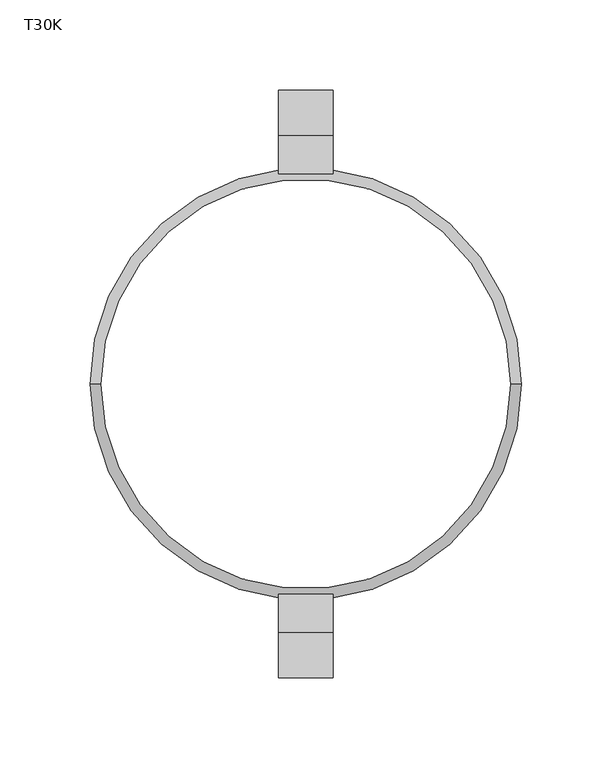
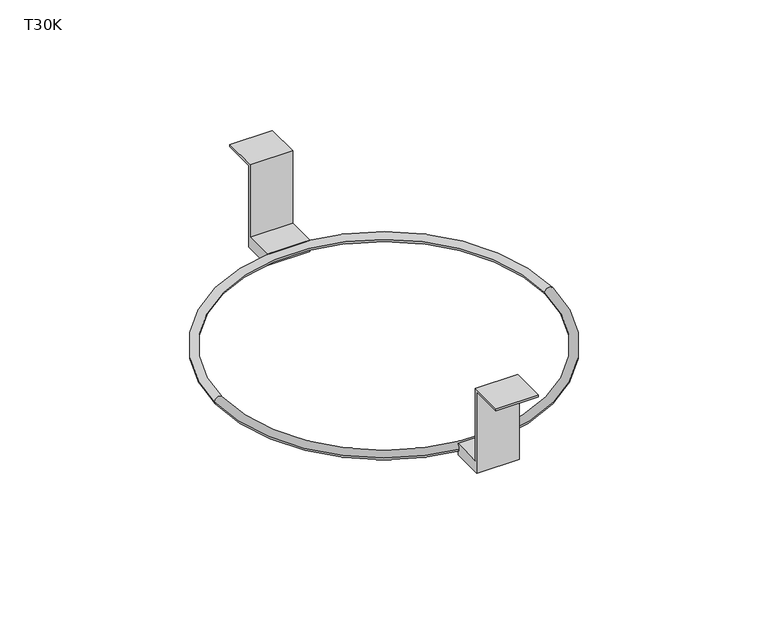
"""IFC4 building model written with IfcOpenShell, lengths in millimetres: valve geometry, Pipelife - Studnia PRO - Uchwyt-ramka : T30K."""

from ifc_helpers import new_model, si_unit, point, frame, origin, origin_with_axes, place, context, project, spatial, polyline, circle_curve, ellipse_curve, trimmed, outline, extrude, source, transform, mapped, element, save
from ifc_brep_helpers import revolved_surface, advanced_brep


def t30k_8f69c86d(model_context):
    return source(origin(), model_context, "Body", "SolidModel", [
        extrude(outline(polyline([(-139.5, 55.5), (-163.0, 55.5), (-163.0, 57.0), (-138.0, 57.0), (-138.0, 3.0), (-116.75, 3.0), (-116.75, -5.5), (-139.5, -5.5), (-139.5, 55.5)])), frame((-15.0, 0.0, 0.0), z_axis=(1.0, 0.0, 0.0), x_axis=(0.0, 1.0, 0.0)), (0.0, 0.0, 1.0), 30.0),
        extrude(outline(polyline([(163.0, 55.5), (139.5, 55.5), (139.5, -5.5), (116.75, -5.5), (116.75, 3.0), (138.0, 3.0), (138.0, 57.0), (163.0, 57.0), (163.0, 55.5)])), frame((-15.0, 0.0, 0.0), z_axis=(1.0, 0.0, 0.0), x_axis=(0.0, 1.0, 0.0)), (0.0, 0.0, 1.0), 30.0),
        advanced_brep(
        [(113.75, 0.0, 0.0), (-113.75, 0.0, 0.0), (-119.75, 0.0, 0.0), (119.75, 0.0, 0.0)],
        [
            (0, 1, circle_curve(frame((0.0, 0.0, 0.0), z_axis=(0.0, 0.0, -1.0), x_axis=(-1.0, 0.0, 0.0)), 113.75)),
            (1, 2, circle_curve(frame((-116.75, 0.0, 0.0), z_axis=(0.0, -1.0, 0.0), x_axis=(1.0, 0.0, 0.0)), 3.0)),
            (2, 3, circle_curve(frame((0.0, 0.0, 0.0), z_axis=(0.0, 0.0, 1.0), x_axis=(-1.0, 0.0, 0.0)), 119.75)),
            (3, 0, circle_curve(frame((116.75, 0.0, 0.0), z_axis=(0.0, -1.0, 0.0), x_axis=(-1.0, 0.0, 0.0)), 3.0)),
            (2, 1, circle_curve(frame((-116.75, 0.0, 0.0), z_axis=(0.0, -1.0, 0.0), x_axis=(1.0, 0.0, 0.0)), 3.0)),
            (0, 3, circle_curve(frame((116.75, 0.0, 0.0), z_axis=(0.0, -1.0, 0.0), x_axis=(-1.0, 0.0, 0.0)), 3.0)),
            (1, 0, circle_curve(frame((0.0, 0.0, 0.0), z_axis=(0.0, 0.0, -1.0), x_axis=(1.0, 0.0, 0.0)), 113.75)),
            (3, 2, circle_curve(origin_with_axes(), 119.75)),
        ],
        [
            revolved_surface(trimmed(ellipse_curve(frame((-116.75, 0.0, 0.0), z_axis=(0.0, 1.0, 0.0), x_axis=(1.0, 0.0, 0.0)), 3.0, 3.0), [point((-119.75, 0.0, 0.0))], [point((-113.75, 0.0, 0.0))], True, "CARTESIAN"), (0.0, 0.0, 0.0), (0.0, 0.0, 1.0)),
            revolved_surface(trimmed(ellipse_curve(frame((-116.75, 0.0, 0.0), z_axis=(0.0, 1.0, 0.0), x_axis=(1.0, 0.0, 0.0)), 3.0, 3.0), [point((-113.75, 0.0, 0.0))], [point((-119.75, 0.0, 0.0))], True, "CARTESIAN"), (0.0, 0.0, 0.0), (0.0, 0.0, 1.0)),
            revolved_surface(trimmed(ellipse_curve(frame((116.75, 0.0, 0.0), z_axis=(0.0, -1.0, 0.0), x_axis=(-1.0, 0.0, 0.0)), 3.0, 3.0), [point((119.75, 0.0, 0.0))], [point((113.75, 0.0, 0.0))], True, "CARTESIAN"), (0.0, 0.0, 0.0), (0.0, 0.0, 1.0)),
            revolved_surface(trimmed(ellipse_curve(frame((116.75, 0.0, 0.0), z_axis=(0.0, -1.0, 0.0), x_axis=(-1.0, 0.0, 0.0)), 3.0, 3.0), [point((113.75, 0.0, 0.0))], [point((119.75, 0.0, 0.0))], True, "CARTESIAN"), (0.0, 0.0, 0.0), (0.0, 0.0, 1.0)),
        ],
        [
            (0, [[1, 2, 3, 4]]),
            (1, [[-3, 5, -1, 6]]),
            (2, [[7, -4, 8, -2]]),
            (3, [[-8, -6, -7, -5]]),
        ],
    ),
    ])


if __name__ == "__main__":
    model = new_model("IFC4")
    model_context = context("Model", 3, world=origin())
    ifc_project = project(units=[si_unit("LENGTHUNIT", "METRE", prefix="MILLI")], contexts=[model_context])
    site = spatial("IfcSite", under=ifc_project)
    building = spatial("IfcBuilding", under=site)
    placement = place(None, origin())
    t30k_shape = t30k_8f69c86d(model_context)
    element("IfcValve", 1, ObjectType="Pipelife - Studnia PRO - Uchwyt-ramka : T30K", at=placement, inside=building, context=model_context, shape_type="MappedRepresentation", body=[
        mapped(t30k_shape, transform((0.0, 0.0, 0.0), x_axis=(1.0, 0.0, 0.0), y_axis=(0.0, 1.0, 0.0), z_axis=(0.0, 0.0, 1.0))),
    ])
    save(model, "model.ifc")
